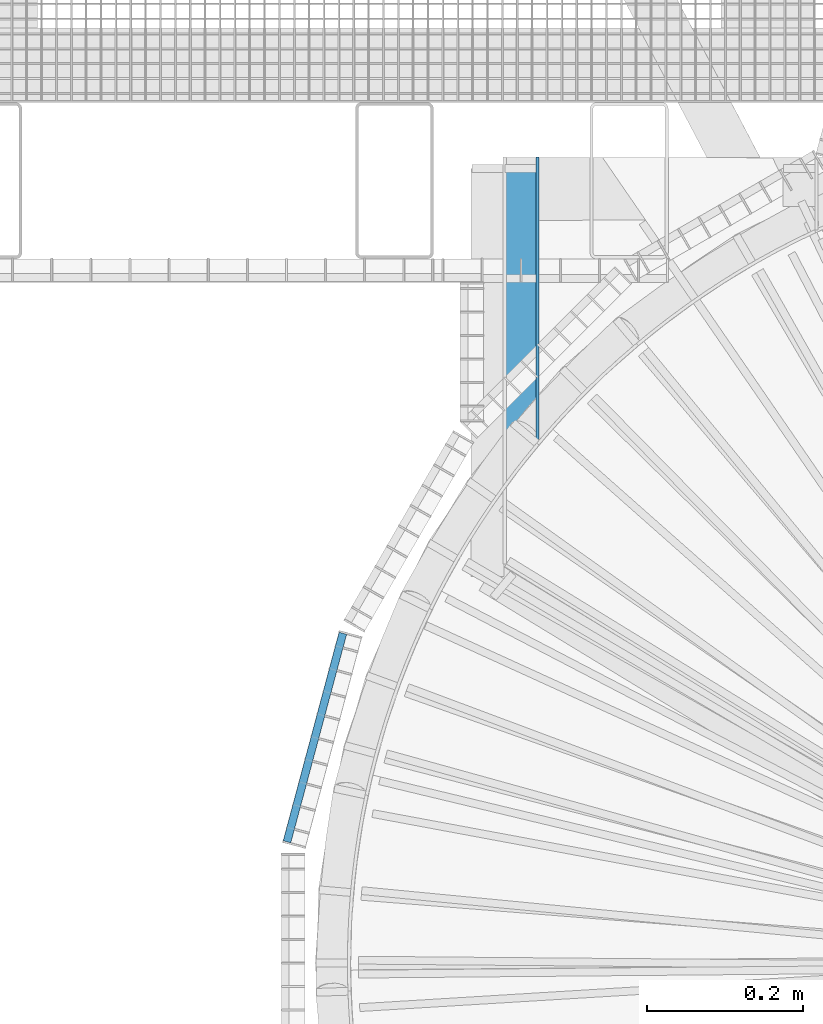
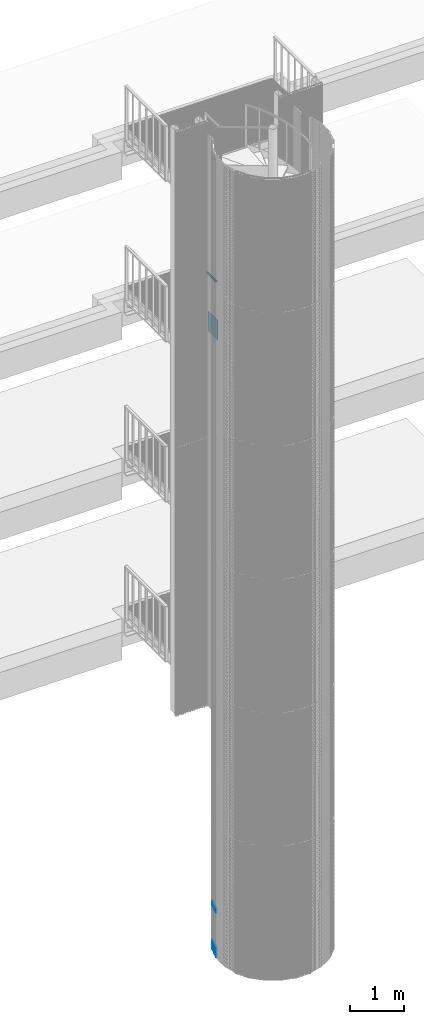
# One storey, part 216 of 1148: 14 beams, 3 elements without a shape of their own.
"""IFC2X3 building model written with IfcOpenShell, lengths in millimetres."""

from ifc_helpers import new_model, si_unit, frame, origin_with_axes, origin_2d_with_axis, place, context, subcontext, project, spatial, rectangle, hollow_circle, extrude, material, type_object, element, aggregate, save


model = new_model("IFC2X3")

# Units and contexts
model_context = context("Model", 3, precision=1e-05, world=origin_with_axes())
body_context = subcontext(model_context, "Body", "Model", "MODEL_VIEW")
ifc_project = project(units=[si_unit("LENGTHUNIT", "METRE", prefix="MILLI"), si_unit("AREAUNIT", "SQUARE_METRE"), si_unit("VOLUMEUNIT", "CUBIC_METRE"), si_unit("MASSUNIT", "GRAM", prefix="KILO"), si_unit("TIMEUNIT", "SECOND"), si_unit("PLANEANGLEUNIT", "RADIAN"), si_unit("SOLIDANGLEUNIT", "STERADIAN"), si_unit("THERMODYNAMICTEMPERATUREUNIT", "DEGREE_CELSIUS"), si_unit("LUMINOUSINTENSITYUNIT", "LUMEN")], contexts=[model_context])

# Site, building, storey
site_placement = place(None, origin_with_axes())
site = spatial("IfcSite", under=ifc_project, at=site_placement, Name="Undefined", CompositionType="ELEMENT")
building_placement = place(site_placement, origin_with_axes())
building = spatial("IfcBuilding", under=site, at=building_placement, Name="Undefined", CompositionType="ELEMENT")
storey_placement = place(building_placement, origin_with_axes())
storey = spatial("IfcBuildingStorey", under=building, at=storey_placement, Name="Undefined", CompositionType="ELEMENT", Elevation=0.0)

# Assembly, beams
assembly_1_placement = place(storey_placement, origin_with_axes())
assembly_1 = element("IfcElementAssembly", 1, at=assembly_1_placement, inside=storey, Name="BORDURE", AssemblyPlace="NOTDEFINED", PredefinedType="NOTDEFINED")
ifc_material = material(Name="STEEL/S235JR")
beam_type_1 = type_object("IfcBeamType", Name="PL2*10", PredefinedType="NOTDEFINED")
beam_1_placement = place(assembly_1_placement, frame((-1039.82309522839, 421.483733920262, 239.999999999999), z_axis=(-0.965925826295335, 0.258819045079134, 0.0), x_axis=(-0.258819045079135, -0.965925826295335, 0.0)))
beam_1 = element("IfcBeam", 2, at=beam_1_placement, type_object=beam_type_1, material=ifc_material, Name="ENTRETOISE", context=body_context, shape_type="SweptSolid", body=[
    extrude(rectangle(XDim=2.0, YDim=10.0, at=origin_2d_with_axis()), frame((275.999999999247, 9.09494701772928e-13, 1.53210777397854e-14), z_axis=(-1.0, 0.0, 0.0), x_axis=(0.0, -1.0, 0.0)), (0.0, 0.0, 1.0), 276.0),
])
beam_2_placement = place(assembly_1_placement, frame((-1039.82309522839, 421.483733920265, 1020.0), z_axis=(-0.965925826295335, 0.258819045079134, 0.0), x_axis=(-0.258819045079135, -0.965925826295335, 0.0)))
beam_2 = element("IfcBeam", 3, at=beam_2_placement, type_object=beam_type_1, material=ifc_material, Name="ENTRETOISE", context=body_context, shape_type="SweptSolid", body=[
    extrude(rectangle(XDim=2.0, YDim=10.0, at=origin_2d_with_axis()), frame((275.999999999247, 9.09494701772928e-13, 1.53210777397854e-14), z_axis=(-1.0, 0.0, 0.0), x_axis=(0.0, -1.0, 0.0)), (0.0, 0.0, 1.0), 276.0),
])
beam_3_placement = place(assembly_1_placement, frame((-1039.82309522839, 421.483733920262, 209.999999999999), z_axis=(-0.965925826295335, 0.258819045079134, 0.0), x_axis=(-0.258819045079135, -0.965925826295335, 0.0)))
beam_3 = element("IfcBeam", 4, at=beam_3_placement, type_object=beam_type_1, material=ifc_material, Name="ENTRETOISE", context=body_context, shape_type="SweptSolid", body=[
    extrude(rectangle(XDim=2.0, YDim=10.0, at=origin_2d_with_axis()), frame((275.999999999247, 9.09494701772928e-13, 1.53210777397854e-14), z_axis=(-1.0, 0.0, 0.0), x_axis=(0.0, -1.0, 0.0)), (0.0, 0.0, 1.0), 276.0),
])
beam_4_placement = place(assembly_1_placement, frame((-1039.82309522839, 421.483733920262, 179.999999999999), z_axis=(-0.965925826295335, 0.258819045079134, 0.0), x_axis=(-0.258819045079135, -0.965925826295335, 0.0)))
beam_4 = element("IfcBeam", 5, at=beam_4_placement, type_object=beam_type_1, material=ifc_material, Name="ENTRETOISE", context=body_context, shape_type="SweptSolid", body=[
    extrude(rectangle(XDim=2.0, YDim=10.0, at=origin_2d_with_axis()), frame((275.999999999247, 9.09494701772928e-13, 1.53210777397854e-14), z_axis=(-1.0, 0.0, 0.0), x_axis=(0.0, -1.0, 0.0)), (0.0, 0.0, 1.0), 276.0),
])
beam_5_placement = place(assembly_1_placement, frame((-1039.82309522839, 421.483733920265, 1050.0), z_axis=(-0.965925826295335, 0.258819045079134, 0.0), x_axis=(-0.258819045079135, -0.965925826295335, 0.0)))
beam_5 = element("IfcBeam", 6, at=beam_5_placement, type_object=beam_type_1, material=ifc_material, Name="ENTRETOISE", context=body_context, shape_type="SweptSolid", body=[
    extrude(rectangle(XDim=2.0, YDim=10.0, at=origin_2d_with_axis()), frame((275.999999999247, 9.09494701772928e-13, 1.53210777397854e-14), z_axis=(-1.0, 0.0, 0.0), x_axis=(0.0, -1.0, 0.0)), (0.0, 0.0, 1.0), 276.0),
])
beam_6_placement = place(assembly_1_placement, frame((-1039.82309522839, 421.483733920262, 149.999999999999), z_axis=(-0.965925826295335, 0.258819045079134, 0.0), x_axis=(-0.258819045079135, -0.965925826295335, 0.0)))
beam_6 = element("IfcBeam", 7, at=beam_6_placement, type_object=beam_type_1, material=ifc_material, Name="ENTRETOISE", context=body_context, shape_type="SweptSolid", body=[
    extrude(rectangle(XDim=2.0, YDim=10.0, at=origin_2d_with_axis()), frame((275.999999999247, 9.09494701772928e-13, 1.53210777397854e-14), z_axis=(-1.0, 0.0, 0.0), x_axis=(0.0, -1.0, 0.0)), (0.0, 0.0, 1.0), 276.0),
])
beam_7_placement = place(assembly_1_placement, frame((-1039.82309522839, 421.483733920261, 119.999999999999), z_axis=(-0.965925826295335, 0.258819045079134, 0.0), x_axis=(-0.258819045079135, -0.965925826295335, 0.0)))
beam_7 = element("IfcBeam", 8, at=beam_7_placement, type_object=beam_type_1, material=ifc_material, Name="ENTRETOISE", context=body_context, shape_type="SweptSolid", body=[
    extrude(rectangle(XDim=2.0, YDim=10.0, at=origin_2d_with_axis()), frame((275.999999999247, 9.09494701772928e-13, 1.53210777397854e-14), z_axis=(-1.0, 0.0, 0.0), x_axis=(0.0, -1.0, 0.0)), (0.0, 0.0, 1.0), 276.0),
])
beam_8_placement = place(assembly_1_placement, frame((-1039.82309522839, 421.483733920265, 1080.0), z_axis=(-0.965925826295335, 0.258819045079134, 0.0), x_axis=(-0.258819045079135, -0.965925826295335, 0.0)))
beam_8 = element("IfcBeam", 9, at=beam_8_placement, type_object=beam_type_1, material=ifc_material, Name="ENTRETOISE", context=body_context, shape_type="SweptSolid", body=[
    extrude(rectangle(XDim=2.0, YDim=10.0, at=origin_2d_with_axis()), frame((275.999999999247, 9.09494701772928e-13, 1.53210777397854e-14), z_axis=(-1.0, 0.0, 0.0), x_axis=(0.0, -1.0, 0.0)), (0.0, 0.0, 1.0), 276.0),
])
beam_9_placement = place(assembly_1_placement, frame((-1039.82309522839, 421.483733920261, 89.9999999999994), z_axis=(-0.965925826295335, 0.258819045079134, 0.0), x_axis=(-0.258819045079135, -0.965925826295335, 0.0)))
beam_9 = element("IfcBeam", 10, at=beam_9_placement, type_object=beam_type_1, material=ifc_material, Name="ENTRETOISE", context=body_context, shape_type="SweptSolid", body=[
    extrude(rectangle(XDim=2.0, YDim=10.0, at=origin_2d_with_axis()), frame((275.999999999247, 9.09494701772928e-13, 1.53210777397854e-14), z_axis=(-1.0, 0.0, 0.0), x_axis=(0.0, -1.0, 0.0)), (0.0, 0.0, 1.0), 276.0),
])
beam_10_placement = place(assembly_1_placement, frame((-1039.82309522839, 421.483733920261, 59.9999999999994), z_axis=(-0.965925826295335, 0.258819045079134, 0.0), x_axis=(-0.258819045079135, -0.965925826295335, 0.0)))
beam_10 = element("IfcBeam", 11, at=beam_10_placement, type_object=beam_type_1, material=ifc_material, Name="ENTRETOISE", context=body_context, shape_type="SweptSolid", body=[
    extrude(rectangle(XDim=2.0, YDim=10.0, at=origin_2d_with_axis()), frame((275.999999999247, 9.09494701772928e-13, 1.53210777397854e-14), z_axis=(-1.0, 0.0, 0.0), x_axis=(0.0, -1.0, 0.0)), (0.0, 0.0, 1.0), 276.0),
])
beam_11_placement = place(assembly_1_placement, frame((-1039.82309522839, 421.483733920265, 1110.0), z_axis=(-0.965925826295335, 0.258819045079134, 0.0), x_axis=(-0.258819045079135, -0.965925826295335, 0.0)))
beam_11 = element("IfcBeam", 12, at=beam_11_placement, type_object=beam_type_1, material=ifc_material, Name="ENTRETOISE", context=body_context, shape_type="SweptSolid", body=[
    extrude(rectangle(XDim=2.0, YDim=10.0, at=origin_2d_with_axis()), frame((275.999999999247, 9.09494701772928e-13, 1.53210777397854e-14), z_axis=(-1.0, 0.0, 0.0), x_axis=(0.0, -1.0, 0.0)), (0.0, 0.0, 1.0), 276.0),
])
beam_12_placement = place(assembly_1_placement, frame((-1039.82309522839, 421.48373392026, 29.9999999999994), z_axis=(-0.965925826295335, 0.258819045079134, 0.0), x_axis=(-0.258819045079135, -0.965925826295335, 0.0)))
beam_12 = element("IfcBeam", 13, at=beam_12_placement, type_object=beam_type_1, material=ifc_material, Name="ENTRETOISE", context=body_context, shape_type="SweptSolid", body=[
    extrude(rectangle(XDim=2.0, YDim=10.0, at=origin_2d_with_axis()), frame((275.999999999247, 9.09494701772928e-13, 1.53210777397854e-14), z_axis=(-1.0, 0.0, 0.0), x_axis=(0.0, -1.0, 0.0)), (0.0, 0.0, 1.0), 276.0),
])
aggregate(assembly_1, [beam_1, beam_2, beam_3, beam_4, beam_5, beam_6, beam_7, beam_8, beam_9, beam_10, beam_11, beam_12])

# Assembly, beam
assembly_2_placement = place(storey_placement, origin_with_axes())
assembly_2 = element("IfcElementAssembly", 14, at=assembly_2_placement, inside=storey, AssemblyPlace="NOTDEFINED", PredefinedType="NOTDEFINED")
beam_type_2 = type_object("IfcBeamType", Name="PLT4*450", PredefinedType="NOTDEFINED")
beam_13_placement = place(assembly_2_placement, frame((-790.962362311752, 668.409588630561, 13689.84), z_axis=(0.0, 0.0, 1.0), x_axis=(0.000144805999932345, 0.999999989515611, 0.0)))
beam_13 = element("IfcBeam", 15, at=beam_13_placement, type_object=beam_type_2, material=ifc_material, Name="GARDE_PIED", context=body_context, shape_type="SweptSolid", body=[
    extrude(rectangle(XDim=4.0, YDim=450.0, at=origin_2d_with_axis()), frame((361.606870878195, -9.80137387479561e-18, 1.81898940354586e-12), z_axis=(-1.0, 0.0, 0.0), x_axis=(0.0, -1.0, 0.0)), (0.0, 0.0, 1.0), 361.61),
])
aggregate(assembly_2, [beam_13])

assembly_3_placement = place(storey_placement, origin_with_axes())
assembly_3 = element("IfcElementAssembly", 16, at=assembly_3_placement, inside=storey, Name="MAIN_COURANTE", AssemblyPlace="NOTDEFINED", PredefinedType="NOTDEFINED")
beam_type_3 = type_object("IfcBeamType", Name="TUBE-42.4*3.2", PredefinedType="NOTDEFINED")
beam_14_placement = place(assembly_3_placement, frame((-810.721028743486, 677.476688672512, 14789.8400000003), z_axis=(-0.999979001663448, -0.00648044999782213, 0.0), x_axis=(-0.00648044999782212, 0.999979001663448, 0.0)))
beam_14 = element("IfcBeam", 17, at=beam_14_placement, type_object=beam_type_3, material=ifc_material, Name="MAIN_COURANTE", context=body_context, shape_type="SweptSolid", body=[
    extrude(hollow_circle(Radius=21.200000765, WallThickness=3.200000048, at=origin_2d_with_axis()), frame((337.900406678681, 1.81898940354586e-12, -2.93081884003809e-16), z_axis=(-1.0, 0.0, 0.0), x_axis=(0.0, -1.0, 0.0)), (0.0, 0.0, 1.0), 337.9),
])
aggregate(assembly_3, [beam_14])

save(model, "model.ifc")
